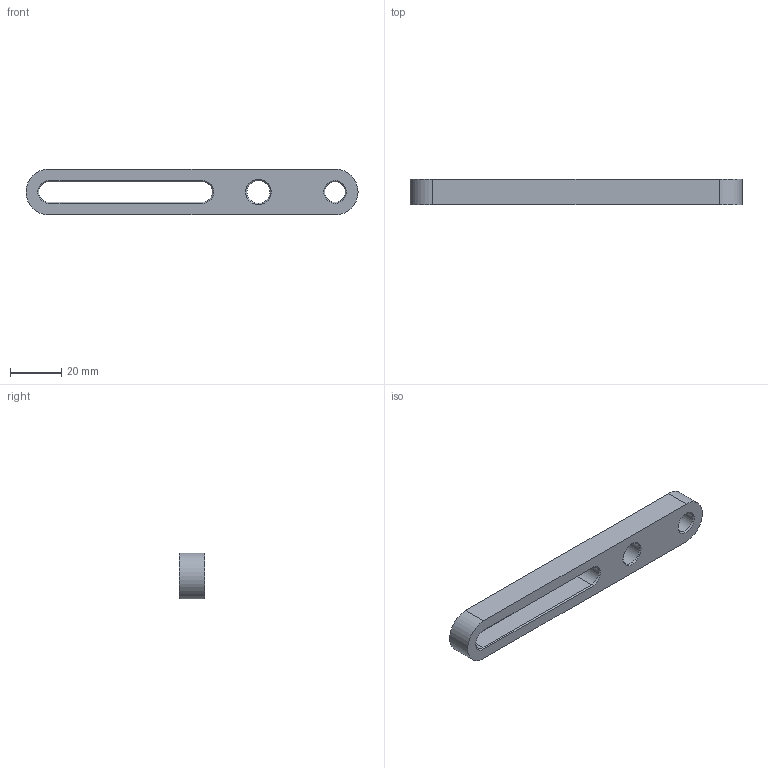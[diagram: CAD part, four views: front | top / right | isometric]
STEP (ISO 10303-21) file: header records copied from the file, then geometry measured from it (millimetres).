
FILE_DESCRIPTION(/* description */ (''),/* implementation_level */ '2;1');
FILE_NAME(/* name */ '',/* time_stamp */ '2024-04-08T11:15:44+09:00',/* author */ ('jhkim'),/* organization */ (''),/* preprocessor_version */ 'ST-DEVELOPER v20',/* originating_system */ 'Autodesk Inventor 2025',/* authorisation */ '');
FILE_SCHEMA (('AUTOMOTIVE_DESIGN { 1 0 10303 214 3 1 1 }'));
Length unit declared in the file: millimetre
Products named in the file (1): 크랭크
Bounding box: 130 x 10 x 18 mm (x, y, z)
Volume: 16212.8 mm3; surface area: 7929.2 mm2
Topology: 1 solids, 1 shells, 24 faces, 54 edges, 32 vertices
Faces by surface type: plane 10, cone 8, cylinder 6
Full cylindrical faces by diameter (mm): 8 x1, 9 x1
Entity records: 717 total; most frequent: DIRECTION 124, CARTESIAN_POINT 111, ORIENTED_EDGE 108, EDGE_CURVE 54, AXIS2_PLACEMENT_3D 45, LINE 34, VECTOR 34, VERTEX_POINT 32
